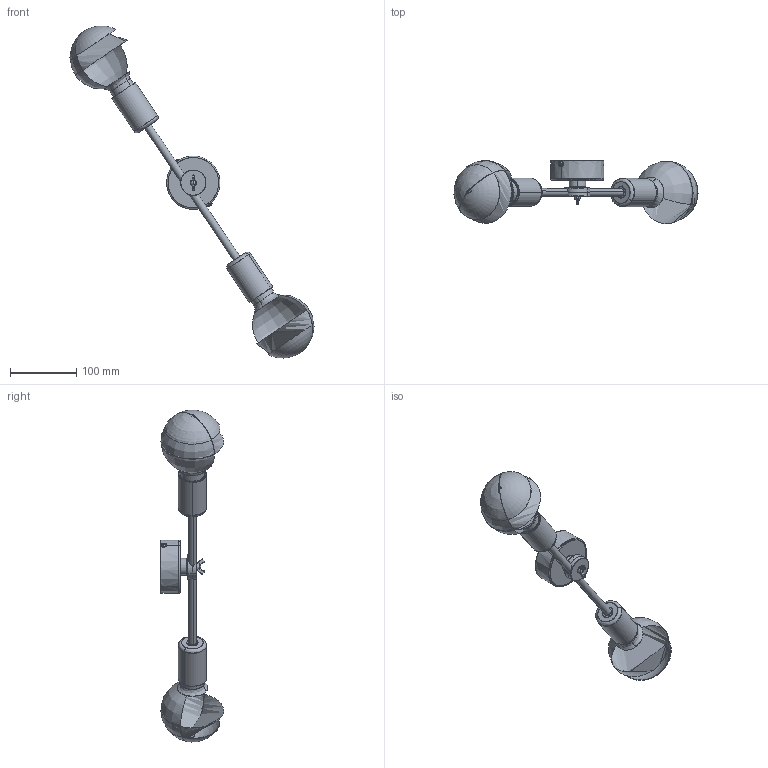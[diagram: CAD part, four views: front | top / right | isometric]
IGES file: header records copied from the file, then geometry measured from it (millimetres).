
Start section: SolidWorks IGES file using analytic representation for surfaces
Global section: file name: E:\3D lampy\Sticks\6267\Sticks_6267.IGS; native system: SolidWorks 2016; preprocessor: SolidWorks 2016; author: Asia; date: 160902.143812; units: millimetre
Bounding box: 367.17 x 95.19 x 499.32 mm (x, y, z)
Surface area: 219880.1 mm2 (no closed solid volume)
Topology: 0 solids, 0 shells, 396 faces, 7145 edges, 7132 vertices
Faces by surface type: revolution 228, bspline 168
